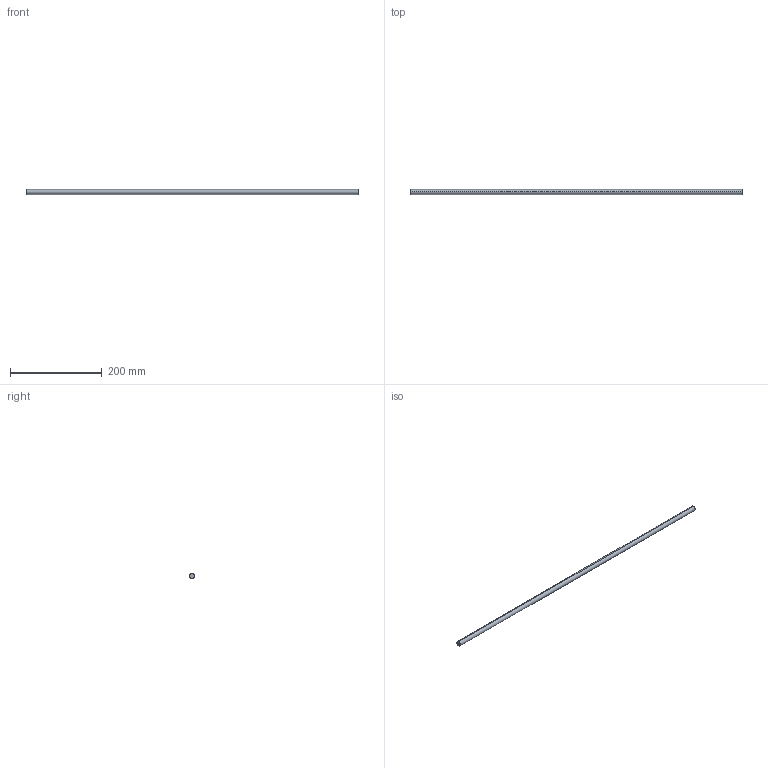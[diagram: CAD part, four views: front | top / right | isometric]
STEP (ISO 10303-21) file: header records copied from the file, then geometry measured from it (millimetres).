
FILE_DESCRIPTION (( 'STEP AP214' ), '1' );
FILE_NAME ('Querreling_2S-Rel_7102_25mm-Halter_KAB-850.step', '2010-09-22T15:06:07', ( 'grass' ), ( '' ), 'SwSTEP 2.0', 'SolidWorks 2010', '' );
FILE_SCHEMA (( 'AUTOMOTIVE_DESIGN' ));
Length unit declared in the file: millimetre
Products named in the file (1): Querreling_2S-Rel_7102_25mm-Halter_KAB-850
Bounding box: 724 x 11 x 11 mm (x, y, z)
Volume: 68804 mm3; surface area: 25209.7 mm2
Topology: 1 solids, 1 shells, 4 faces, 6 edges, 4 vertices
Faces by surface type: cylinder 2, plane 2
Entity records: 128 total; most frequent: DIRECTION 20, CARTESIAN_POINT 15, ORIENTED_EDGE 12, AXIS2_PLACEMENT_3D 9, EDGE_CURVE 6, VERTEX_POINT 4, FACE_OUTER_BOUND 4, EDGE_LOOP 4
